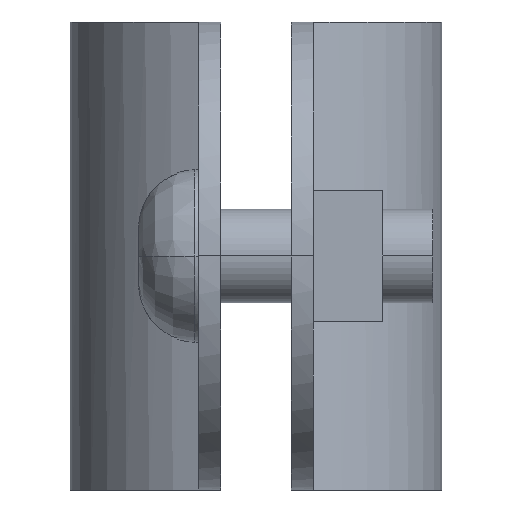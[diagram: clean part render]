
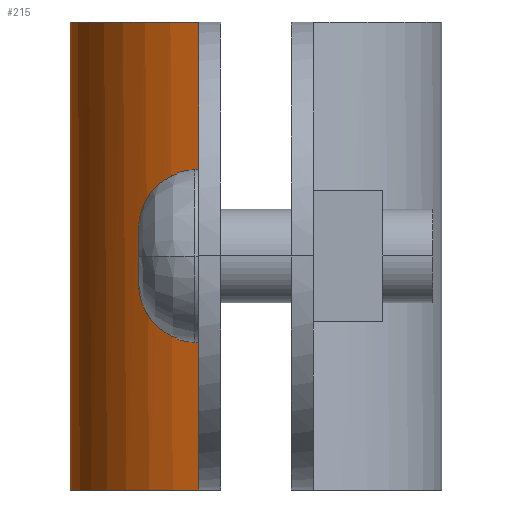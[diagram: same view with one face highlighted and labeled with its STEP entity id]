
A CAD part, left-side view. The second image highlights one B-rep face of the part: STEP entity #215.
In plain terms, the highlighted free-form (B-spline) face has degree [3, 1] with [4, 2] control points.
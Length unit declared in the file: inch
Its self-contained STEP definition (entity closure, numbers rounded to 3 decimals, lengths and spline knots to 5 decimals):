
#215=ADVANCED_FACE('',(#451),#452,.T.);
#451=FACE_OUTER_BOUND('',#840,.T.);
#452=B_SPLINE_SURFACE_WITH_KNOTS('',3,1,((#841,#842),(#843,#844),(#845,#846),(#847,#848)),.UNSPECIFIED.,.F.,.F.,.F.,(4,4),(2,2),(0.0,1.0),(0.0,1.25),.UNSPECIFIED.);
#840=EDGE_LOOP('',(#1585,#1586,#1587,#1588));
#841=CARTESIAN_POINT('',(0.95459,1.16228,0.0));
#842=CARTESIAN_POINT('',(0.95459,1.16228,1.25));
#843=CARTESIAN_POINT('',(0.73942,1.16228,0.0));
#844=CARTESIAN_POINT('',(0.73942,1.16228,1.25));
#845=CARTESIAN_POINT('',(0.54872,1.02374,0.0));
#846=CARTESIAN_POINT('',(0.54872,1.02374,1.25));
#847=CARTESIAN_POINT('',(0.48225,0.81911,0.0));
#848=CARTESIAN_POINT('',(0.48225,0.81911,1.25));
#1585=ORIENTED_EDGE('',*,*,#2145,.T.);
#1586=ORIENTED_EDGE('',*,*,#2146,.F.);
#1587=ORIENTED_EDGE('',*,*,#2018,.T.);
#1588=ORIENTED_EDGE('',*,*,#2147,.T.);
#2018=EDGE_CURVE('',#2293,#2290,#2294,.T.);
#2145=EDGE_CURVE('',#2506,#2507,#2508,.T.);
#2146=EDGE_CURVE('',#2293,#2507,#2509,.T.);
#2147=EDGE_CURVE('',#2290,#2506,#2510,.T.);
#2290=VERTEX_POINT('',#2691);
#2293=VERTEX_POINT('',#2695);
#2294=B_SPLINE_CURVE_WITH_KNOTS('',3,(#2696,#2697,#2698,#2699),.UNSPECIFIED.,.F.,.F.,(4,4),(0.0,1.0),.UNSPECIFIED.);
#2506=VERTEX_POINT('',#3098);
#2507=VERTEX_POINT('',#3099);
#2508=B_SPLINE_CURVE_WITH_KNOTS('',3,(#3100,#3101,#3102,#3103),.UNSPECIFIED.,.F.,.F.,(4,4),(-1.0,-0.0),.UNSPECIFIED.);
#2509=LINE('',#3104,#3105);
#2510=LINE('',#3106,#3107);
#2691=CARTESIAN_POINT('',(0.48225,0.81911,0.00009));
#2695=CARTESIAN_POINT('',(0.95459,1.16228,0.00009));
#2696=CARTESIAN_POINT('',(0.95459,1.16228,0.00009));
#2697=CARTESIAN_POINT('',(0.73942,1.16228,0.00009));
#2698=CARTESIAN_POINT('',(0.54872,1.02374,0.00009));
#2699=CARTESIAN_POINT('',(0.48225,0.81911,0.00009));
#3098=CARTESIAN_POINT('',(0.48225,0.81911,1.24989));
#3099=CARTESIAN_POINT('',(0.95459,1.16228,1.24989));
#3100=CARTESIAN_POINT('',(0.48225,0.81911,1.24989));
#3101=CARTESIAN_POINT('',(0.54872,1.02374,1.24989));
#3102=CARTESIAN_POINT('',(0.73942,1.16228,1.24989));
#3103=CARTESIAN_POINT('',(0.95459,1.16228,1.24989));
#3104=CARTESIAN_POINT('',(0.95459,1.16228,0.0));
#3105=VECTOR('',#3594,1.0);
#3106=CARTESIAN_POINT('',(0.48225,0.81911,0.0));
#3107=VECTOR('',#3595,1.0);
#3594=DIRECTION('',(0.0,0.0,1.0));
#3595=DIRECTION('',(0.0,0.0,1.0));
